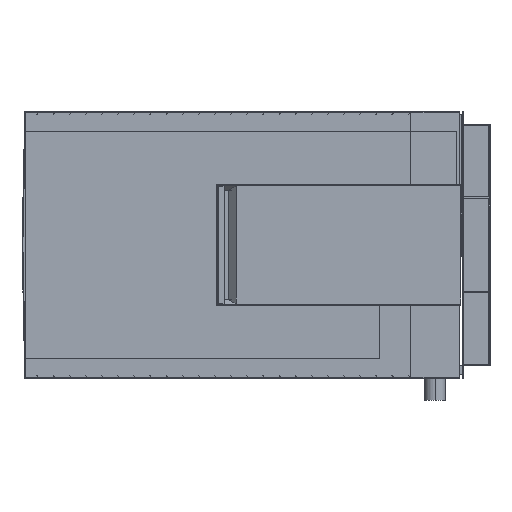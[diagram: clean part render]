
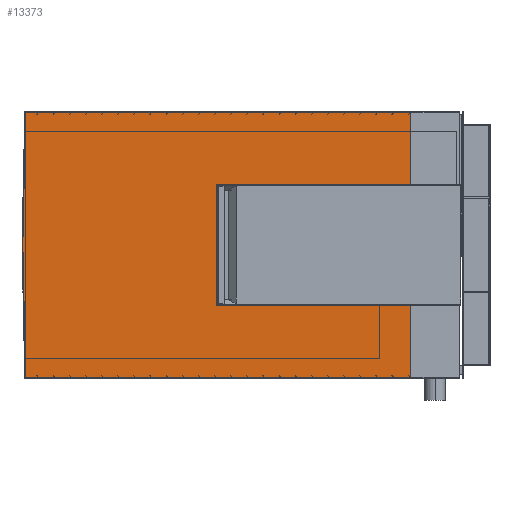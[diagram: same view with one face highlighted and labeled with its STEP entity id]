
A CAD part, left-side view. The second image highlights one B-rep face of the part: STEP entity #13373.
In plain terms, the highlighted planar face has unit normal (-1, 0, 0).
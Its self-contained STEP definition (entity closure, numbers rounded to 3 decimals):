
#1341 = DIRECTION ( 'NONE',  ( 0., -0.021, -1. ) ) ;
#1602 = LINE ( 'NONE', #36740, #41687 ) ;
#3478 = EDGE_LOOP ( 'NONE', ( #34870, #46621, #33190, #36975, #10568 ) ) ;
#4180 = AXIS2_PLACEMENT_3D ( 'NONE', #10539, #21395, #48798 ) ;
#8494 = VERTEX_POINT ( 'NONE', #50062 ) ;
#8622 = VERTEX_POINT ( 'NONE', #35349 ) ;
#8732 = LINE ( 'NONE', #48019, #14024 ) ;
#10331 = EDGE_CURVE ( 'NONE', #8622, #8494, #34420, .T. ) ;
#10539 = CARTESIAN_POINT ( 'NONE',  ( -787.5, 1622., 477. ) ) ;
#10568 = ORIENTED_EDGE ( 'NONE', *, *, #25780, .F. ) ;
#11156 = CARTESIAN_POINT ( 'NONE',  ( -787.5, 1572., 0. ) ) ;
#11239 = DIRECTION ( 'NONE',  ( 0., 0.021, -1. ) ) ;
#12973 = VERTEX_POINT ( 'NONE', #49345 ) ;
#13248 = EDGE_CURVE ( 'NONE', #25137, #8494, #28683, .T. ) ;
#13373 = ADVANCED_FACE ( 'NONE', ( #18292 ), #17519, .F. ) ;
#14024 = VECTOR ( 'NONE', #31335, 1000. ) ;
#17404 = VECTOR ( 'NONE', #30568, 1000. ) ;
#17519 = PLANE ( 'NONE',  #4180 ) ;
#18292 = FACE_OUTER_BOUND ( 'NONE', #3478, .T. ) ;
#21395 = DIRECTION ( 'NONE',  ( 1., 0., 0. ) ) ;
#25137 = VERTEX_POINT ( 'NONE', #34012 ) ;
#25599 = VECTOR ( 'NONE', #28931, 1000. ) ;
#25780 = EDGE_CURVE ( 'NONE', #12973, #25137, #8732, .T. ) ;
#28683 = LINE ( 'NONE', #44420, #25599 ) ;
#28931 = DIRECTION ( 'NONE',  ( 0., 0., -1. ) ) ;
#30568 = DIRECTION ( 'NONE',  ( 0., -1., 0. ) ) ;
#31335 = DIRECTION ( 'NONE',  ( 0., -1., 0. ) ) ;
#33190 = ORIENTED_EDGE ( 'NONE', *, *, #10331, .T. ) ;
#33500 = VERTEX_POINT ( 'NONE', #11156 ) ;
#34012 = CARTESIAN_POINT ( 'NONE',  ( -787.5, 175., 477. ) ) ;
#34420 = LINE ( 'NONE', #35180, #17404 ) ;
#34581 = EDGE_CURVE ( 'NONE', #33500, #8622, #1602, .T. ) ;
#34870 = ORIENTED_EDGE ( 'NONE', *, *, #48114, .T. ) ;
#35180 = CARTESIAN_POINT ( 'NONE',  ( -787.5, 1622., -477. ) ) ;
#35349 = CARTESIAN_POINT ( 'NONE',  ( -787.5, 1562.062, -477. ) ) ;
#36740 = CARTESIAN_POINT ( 'NONE',  ( -787.5, 1581.956, 477.834 ) ) ;
#36975 = ORIENTED_EDGE ( 'NONE', *, *, #13248, .F. ) ;
#37890 = LINE ( 'NONE', #38167, #49715 ) ;
#38167 = CARTESIAN_POINT ( 'NONE',  ( -787.5, 1562.088, 475.752 ) ) ;
#41687 = VECTOR ( 'NONE', #1341, 1000. ) ;
#44420 = CARTESIAN_POINT ( 'NONE',  ( -787.5, 175., 477. ) ) ;
#46621 = ORIENTED_EDGE ( 'NONE', *, *, #34581, .T. ) ;
#48019 = CARTESIAN_POINT ( 'NONE',  ( -787.5, 1622., 477. ) ) ;
#48114 = EDGE_CURVE ( 'NONE', #12973, #33500, #37890, .T. ) ;
#48798 = DIRECTION ( 'NONE',  ( 0., 0., 1. ) ) ;
#49345 = CARTESIAN_POINT ( 'NONE',  ( -787.5, 1562.062, 477. ) ) ;
#49715 = VECTOR ( 'NONE', #11239, 1000. ) ;
#50062 = CARTESIAN_POINT ( 'NONE',  ( -787.5, 175., -477. ) ) ;
